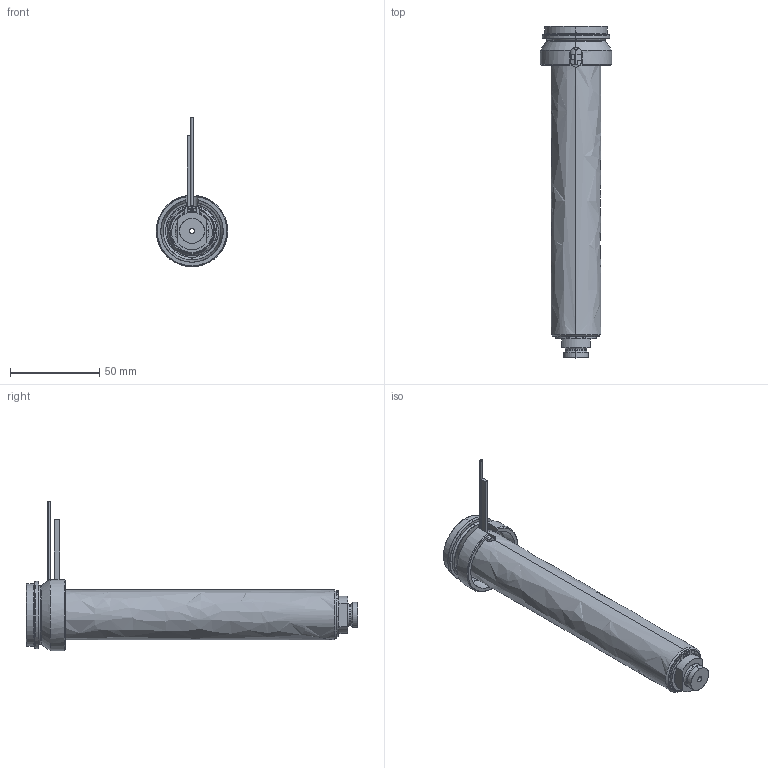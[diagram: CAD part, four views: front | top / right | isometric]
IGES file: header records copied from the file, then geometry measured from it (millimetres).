
Start section: SolidWorks IGES file using analytic representation for surfaces
Global section: file name: C:\Documents and Settings\ws-20\Desktop\TEMPORANEA\UGBE4004-S-A-3 [Ød-2.5 P-0 ØC-10].IGS; native system: SolidWorks 2012; preprocessor: SolidWorks 2012; author: ws-20; date: 120306.141055; units: millimetre
Bounding box: 40 x 186 x 83.65 mm (x, y, z)
Surface area: 55100.5 mm2 (no closed solid volume)
Topology: 0 solids, 0 shells, 107 faces, 1797 edges, 1797 vertices
Faces by surface type: revolution 66, bspline 41
